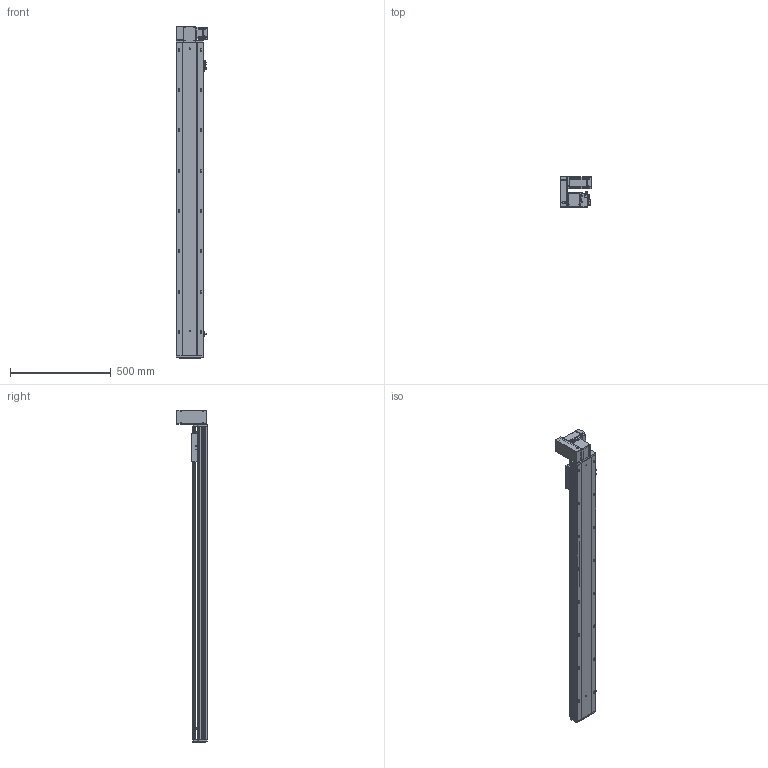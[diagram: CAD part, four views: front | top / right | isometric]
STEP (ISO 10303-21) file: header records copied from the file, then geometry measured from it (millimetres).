
FILE_DESCRIPTION (( 'STEP AP203' ), '1' );
FILE_NAME ('RY140-T-300-UL.SLDASM_1300.step', '2021-03-01T07:44:15', ( '盈信电脑' ), ( '东莞市道滘镇水果街19号' ), 'SwSTEP 2.0', 'SolidWorks 2012', '' );
FILE_SCHEMA (( 'CONFIG_CONTROL_DESIGN' ));
Length unit declared in the file: millimetre
Products named in the file (18): RY140-T-300-UL.SLDASM_1300; RY140-T萇儂欶; 滅袉蝶18-10; RY120-T蹟翐M4; RY140-T翋肮謫裔啣; 15; 侂狟400W侜督萇儂; RY140-T萇儂假蚾啣; RY120-T主同步轮轴承压盖; RY140-T翋肮祭謫盓傅釱; RY120-T肮祭湍揤踡輸1; RY120-T肮祭湍揤踡輸2; RY140-T-300-DL倰第奻裔啣_1300; RY120外置感应片(140共用）; 覜茼ん672; RY140綴裔啣; RY140-T-300-DL倰第菁釱_1300; RY140肮祭謫臏賑輸
Assembly tree (23 placements, depth 3):
  RY140-T-300-UL.SLDASM_1300
    RY140-T-300-DL倰第菁釱_1300
    RY140肮祭謫臏賑輸
    RY140-T-300-DL倰第奻裔啣_1300
    RY140綴裔啣
    覜茼ん672  x3
    RY120外置感应片(140共用）
    RY120-T肮祭湍揤踡輸2
    RY120-T肮祭湍揤踡輸1
    RY140-T翋肮祭謫盓傅釱
    RY140-T萇儂假蚾啣
    侂狟400W侜督萇儂
      15
    RY120-T主同步轮轴承压盖
    RY120-T蹟翐M4  x4
    RY140-T萇儂欶
    滅袉蝶18-10  x2
    RY140-T翋肮謫裔啣
Bounding box: 157 x 152.5 x 1646 mm (x, y, z)
Volume: 4715496.5 mm3; surface area: 1817143.7 mm2
Topology: 22 solids, 22 shells, 2727 faces, 7457 edges, 4768 vertices
Faces by surface type: plane 1381, cylinder 1004, cone 242, bspline 100
Entity records: 86027 total; most frequent: CARTESIAN_POINT 20901, ORIENTED_EDGE 13354, DIRECTION 12749, EDGE_CURVE 6677, VERTEX_POINT 4367, LINE 4261, VECTOR 4261, AXIS2_PLACEMENT_3D 4244
